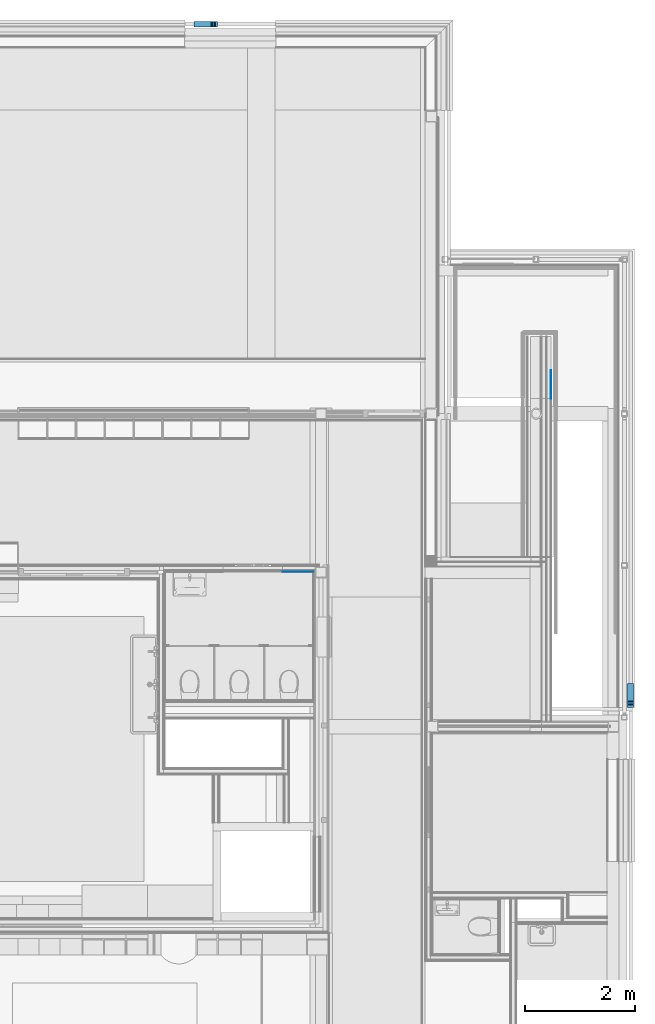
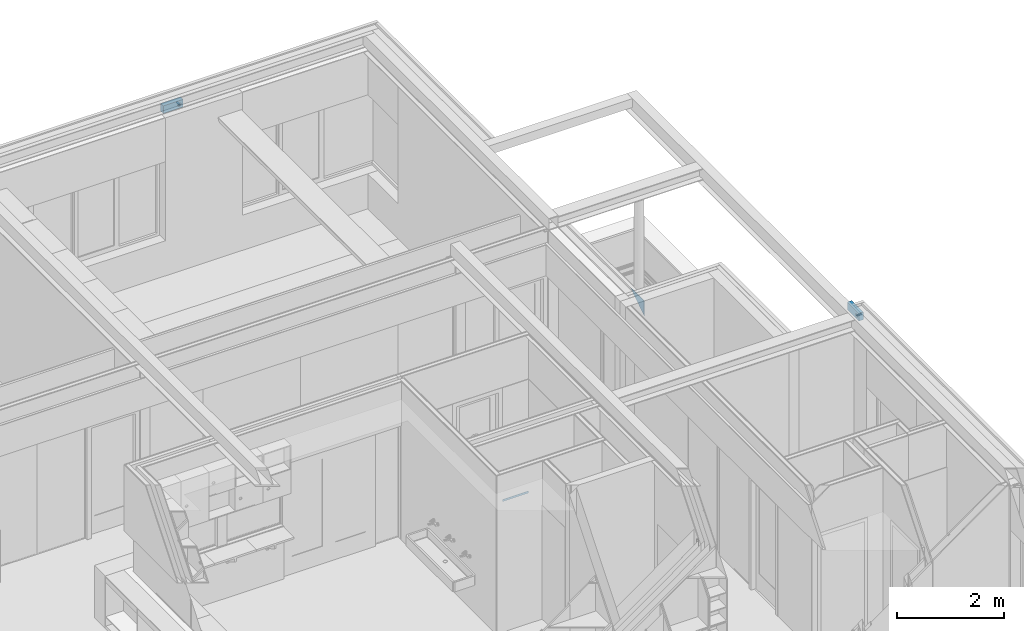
# One storey, part 101 of 137: 9 building element parts, 4 elements without a shape of their own.
"""IFC2X3 building model written with IfcOpenShell, lengths in millimetres."""

from ifc_helpers import new_model, entity, si_unit, converted_unit, derived_unit, money_unit, direction, frame, origin_with_axes, place, context, subcontext, project, spatial, faceted_brep, material, type_object, element, aggregate, save


model = new_model("IFC2X3")

# Units and contexts
model_context = context("Model", 3, precision=0.01, world=origin_with_axes(), true_north=direction((0.0, 1.0)))
body_context = subcontext(model_context, "Body", "Model", "MODEL_VIEW")
ifc_project = project(units=[si_unit("LENGTHUNIT", "METRE", prefix="MILLI"), si_unit("AREAUNIT", "SQUARE_METRE"), si_unit("VOLUMEUNIT", "CUBIC_METRE"), converted_unit("PLANEANGLEUNIT", "DEGREE", entity("IfcPlaneAngleMeasure", 0.0174532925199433), si_unit("PLANEANGLEUNIT", "RADIAN"), dimensions=[0, 0, 0, 0, 0, 0, 0]), money_unit("EUR"), converted_unit("TIMEUNIT", "Year", entity("IfcTimeMeasure", 31556926.0), si_unit("TIMEUNIT", "SECOND"), dimensions=[0, 0, 1, 0, 0, 0, 0]), si_unit("MASSUNIT", "GRAM", prefix="KILO"), si_unit("THERMODYNAMICTEMPERATUREUNIT", "DEGREE_CELSIUS"), si_unit("LUMINOUSINTENSITYUNIT", "LUMEN"), si_unit("ENERGYUNIT", "JOULE", prefix="MEGA"), derived_unit("THERMALCONDUCTANCEUNIT", [(si_unit("POWERUNIT", "WATT"), 1), (si_unit("LENGTHUNIT", "METRE"), -1), (si_unit("THERMODYNAMICTEMPERATUREUNIT", "KELVIN"), -1)]), derived_unit("SPECIFICHEATCAPACITYUNIT", [(si_unit("ENERGYUNIT", "JOULE"), 1), (si_unit("MASSUNIT", "GRAM", prefix="KILO"), -1), (si_unit("THERMODYNAMICTEMPERATUREUNIT", "KELVIN"), -1)]), derived_unit("MASSDENSITYUNIT", [(si_unit("MASSUNIT", "GRAM", prefix="KILO"), 1), (si_unit("VOLUMEUNIT", "CUBIC_METRE"), -1)])], contexts=[model_context])

# Site, building, storey
site_placement = place(None, origin_with_axes())
site = spatial("IfcSite", under=ifc_project, at=site_placement, Name="Site", CompositionType="ELEMENT")
building_placement = place(site_placement, origin_with_axes())
building = spatial("IfcBuilding", under=site, at=building_placement, Name="Naam gebouw", CompositionType="ELEMENT")
storey_placement = place(building_placement, frame((0.0, 0.0, 3960.0), z_axis=(0.0, 0.0, 1.0), x_axis=(1.0, 0.0, 0.0)))
storey = spatial("IfcBuildingStorey", under=building, at=storey_placement, Name="1e verdieping", CompositionType="ELEMENT", Elevation=3960.0)

# Wall, building element parts
wall_type = type_object("IfcWallType", Name="21 Borstwering STO Buitengevelisolatie 439", PredefinedType="NOTDEFINED")
wall_placement = place(storey_placement, frame((28500.00002397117, 22600.9762103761, -1099.99993747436), z_axis=(0.0, 0.0, 1.0), x_axis=(0.0, 1.0, 0.0)))
wall = element("IfcWall", 1, at=wall_placement, inside=storey, type_object=wall_type, Name="21_Wand-x")
ifc_material_1 = material(Name="STO weefsellaag")
building_element_part_1_placement = place(wall_placement, origin_with_axes())
building_element_part_1 = element("IfcBuildingElementPart", 2, at=building_element_part_1_placement, material=ifc_material_1, Name="STO weefsellaag", context=body_context, shape_type="Brep", body=[
    faceted_brep([(0.0, -172.9999999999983, 1720.676971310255), (508.984543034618, -172.9999999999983, 2060.0), (0.0, -172.9999999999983, 2060.0), (508.984543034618, -168.0000499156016, 2060.0), (0.0, -168.0000499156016, 1720.676971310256), (0.0, -167.9999999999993, 2060.0)], [[[0, 1, 2]], [[3, 1, 0, 4]], [[1, 3, 5, 2]], [[4, 0, 2, 5]], [[3, 4, 5]]]),
])
ifc_material_2 = material(Name="STO pleisterlaag")
building_element_part_2_placement = place(wall_placement, origin_with_axes())
building_element_part_2 = element("IfcBuildingElementPart", 3, at=building_element_part_2_placement, material=ifc_material_2, Name="STO pleisterlaag", context=body_context, shape_type="Brep", body=[
    faceted_brep([(0.0, -176.0000499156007, 1720.676971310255), (508.984543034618, -176.0000499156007, 2060.0), (0.0, -175.9999999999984, 2060.0), (508.984543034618, -172.9999999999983, 2060.0), (0.0, -172.9999999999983, 1720.676971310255), (0.0, -172.9999999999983, 2060.0)], [[[0, 1, 2]], [[3, 1, 0, 4]], [[1, 3, 5, 2]], [[4, 0, 2, 5]], [[3, 4, 5]]]),
])
aggregate(wall, [building_element_part_1, building_element_part_2])

# Beam, building element parts
beam_type = type_object("IfcBeamType", Name="41 Nestkast zwaluw 430 x 175", PredefinedType="BEAM")
beam_1_placement = place(storey_placement, frame((30159.99999999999, 17429.99778166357, 3410.000000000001), z_axis=(0.0, 0.0, 1.0), x_axis=(0.0, 1.0, 0.0)))
beam_1 = element("IfcBeam", 4, at=beam_1_placement, inside=storey, type_object=beam_type, Name="_Regenwaterafvoer-x", ObjectType="BEAM")
ifc_material_3 = material(Name="Beton gewapend C")
building_element_part_3_placement = place(beam_1_placement, origin_with_axes())
building_element_part_3 = element("IfcBuildingElementPart", 5, at=building_element_part_3_placement, material=ifc_material_3, Name="Beton gewapend C", context=body_context, shape_type="Brep", body=[
    faceted_brep([(-386.9551813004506, 100.0000000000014, 64.69266270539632), (-378.2842712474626, 100.0000000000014, 51.71572875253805), (-378.2842712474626, 0.0, 51.71572875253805), (-386.9551813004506, 0.0, 64.69266270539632), (-390.0000000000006, 100.0000000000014, 80.00000000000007), (-386.9551813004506, 100.0000000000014, 95.30733729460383), (-378.2842712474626, 100.0000000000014, 108.2842712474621), (-365.3073372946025, 100.0000000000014, 116.9551813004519), (-350.0000000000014, 100.0000000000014, 120.0000000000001), (-334.6926627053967, 100.0000000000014, 116.9551813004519), (-321.7157287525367, 100.0000000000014, 108.2842712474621), (-313.0448186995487, 100.0000000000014, 95.30733729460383), (-309.9999999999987, 100.0000000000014, 80.00000000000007), (-313.0448186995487, 100.0000000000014, 64.69266270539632), (-321.7157287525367, 100.0000000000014, 51.71572875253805), (-334.6926627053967, 100.0000000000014, 43.04481869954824), (-350.0000000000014, 100.0000000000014, 40.00000000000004), (-365.3073372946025, 100.0000000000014, 43.04481869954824), (-329.9999999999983, 100.0000000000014, 75.00000000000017), (-329.9999999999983, 100.0000000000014, 84.99999999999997), (-331.4644660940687, 100.0000000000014, 88.53553390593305), (-335.0000000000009, 100.0000000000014, 89.99999999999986), (-364.9999999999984, 100.0000000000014, 89.99999999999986), (-368.5355339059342, 100.0000000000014, 88.53553390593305), (-370.000000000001, 100.0000000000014, 84.99999999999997), (-370.000000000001, 100.0000000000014, 75.00000000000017), (-368.5355339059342, 100.0000000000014, 71.46446609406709), (-364.9999999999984, 100.0000000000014, 70.00000000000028), (-335.0000000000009, 100.0000000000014, 70.00000000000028), (-331.4644660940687, 100.0000000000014, 71.46446609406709), (-365.3073372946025, 0.0, 43.04481869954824), (-350.0000000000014, 0.0, 40.00000000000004), (-334.6926627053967, 0.0, 43.04481869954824), (-321.7157287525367, 0.0, 51.71572875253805), (-313.0448186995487, 0.0, 64.69266270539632), (-309.9999999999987, 0.0, 80.00000000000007), (-313.0448186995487, 0.0, 95.30733729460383), (-321.7157287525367, 0.0, 108.2842712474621), (-334.6926627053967, 0.0, 116.9551813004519), (-350.0000000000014, 0.0, 120.0000000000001), (-365.3073372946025, 0.0, 116.9551813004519), (-378.2842712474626, 0.0, 108.2842712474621), (-386.9551813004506, 0.0, 95.30733729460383), (-390.0000000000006, 0.0, 80.00000000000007), (-329.9999999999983, 0.0, 75.00000000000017), (-331.4644660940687, 0.0, 71.46446609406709), (-335.0000000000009, 0.0, 70.00000000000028), (-364.9999999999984, 0.0, 70.00000000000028), (-368.5355339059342, 0.0, 71.46446609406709), (-370.000000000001, 0.0, 75.00000000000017), (-370.000000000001, 0.0, 84.99999999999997), (-368.5355339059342, 0.0, 88.53553390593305), (-364.9999999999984, 0.0, 89.99999999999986), (-335.0000000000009, 0.0, 89.99999999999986), (-331.4644660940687, 0.0, 88.53553390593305), (-329.9999999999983, 0.0, 84.99999999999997)], [[[0, 1, 2, 3]], [[0, 4, 5, 6, 7, 8, 9, 10, 11, 12, 13, 14, 15, 16, 17, 1], [18, 19, 20, 21, 22, 23, 24, 25, 26, 27, 28, 29]], [[1, 17, 30, 2]], [[3, 2, 30, 31, 32, 33, 34, 35, 36, 37, 38, 39, 40, 41, 42, 43], [44, 45, 46, 47, 48, 49, 50, 51, 52, 53, 54, 55]], [[4, 0, 3, 43]], [[5, 4, 43, 42]], [[6, 5, 42, 41]], [[7, 6, 41, 40]], [[8, 7, 40, 39]], [[9, 8, 39, 38]], [[10, 9, 38, 37]], [[11, 10, 37, 36]], [[12, 11, 36, 35]], [[13, 12, 35, 34]], [[14, 13, 34, 33]], [[15, 14, 33, 32]], [[16, 15, 32, 31]], [[17, 16, 31, 30]], [[19, 18, 44, 55]], [[20, 19, 55, 54]], [[21, 20, 54, 53]], [[22, 21, 53, 52]], [[23, 22, 52, 51]], [[24, 23, 51, 50]], [[25, 24, 50, 49]], [[26, 25, 49, 48]], [[27, 26, 48, 47]], [[28, 27, 47, 46]], [[29, 28, 46, 45]], [[18, 29, 45, 44]]]),
])
ifc_material_4 = material(Name="Beton gewapend C vloer")
building_element_part_4_placement = place(beam_1_placement, origin_with_axes())
building_element_part_4 = element("IfcBuildingElementPart", 6, at=building_element_part_4_placement, material=ifc_material_4, Name="Beton gewapend C vloer", context=body_context, shape_type="Brep", body=[
    faceted_brep([(-364.9999999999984, 100.0000000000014, 89.99999999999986), (-368.5355339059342, 100.0000000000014, 88.53553390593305), (-368.5355339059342, 0.0, 88.53553390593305), (-364.9999999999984, 0.0, 89.99999999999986), (-335.0000000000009, 100.0000000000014, 89.99999999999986), (-331.4644660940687, 100.0000000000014, 88.53553390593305), (-329.9999999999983, 100.0000000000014, 84.99999999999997), (-329.9999999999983, 100.0000000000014, 75.00000000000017), (-331.4644660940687, 100.0000000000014, 71.46446609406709), (-335.0000000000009, 100.0000000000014, 70.00000000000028), (-364.9999999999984, 100.0000000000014, 70.00000000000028), (-368.5355339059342, 100.0000000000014, 71.46446609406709), (-370.000000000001, 100.0000000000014, 75.00000000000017), (-370.000000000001, 100.0000000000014, 84.99999999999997), (-370.000000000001, 0.0, 84.99999999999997), (-370.000000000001, 0.0, 75.00000000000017), (-368.5355339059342, 0.0, 71.46446609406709), (-364.9999999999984, 0.0, 70.00000000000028), (-335.0000000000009, 0.0, 70.00000000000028), (-331.4644660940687, 0.0, 71.46446609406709), (-329.9999999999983, 0.0, 75.00000000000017), (-329.9999999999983, 0.0, 84.99999999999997), (-331.4644660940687, 0.0, 88.53553390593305), (-335.0000000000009, 0.0, 89.99999999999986)], [[[0, 1, 2, 3]], [[0, 4, 5, 6, 7, 8, 9, 10, 11, 12, 13, 1]], [[1, 13, 14, 2]], [[3, 2, 14, 15, 16, 17, 18, 19, 20, 21, 22, 23]], [[4, 0, 3, 23]], [[5, 4, 23, 22]], [[6, 5, 22, 21]], [[7, 6, 21, 20]], [[8, 7, 20, 19]], [[9, 8, 19, 18]], [[10, 9, 18, 17]], [[11, 10, 17, 16]], [[12, 11, 16, 15]], [[13, 12, 15, 14]]]),
])
ifc_material_5 = material(Name="Beton C")
building_element_part_5_placement = place(beam_1_placement, origin_with_axes())
building_element_part_5 = element("IfcBuildingElementPart", 7, at=building_element_part_5_placement, material=ifc_material_5, Name="Beton C", context=body_context, shape_type="Brep", body=[
    faceted_brep([(-429.9999999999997, 100.0000000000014, 0.0), (0.0, 100.0000000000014, 0.0), (0.0, 0.0, 0.0), (-429.9999999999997, 0.0, 0.0), (-429.9999999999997, 100.0000000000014, 174.9999999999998), (0.0, 100.0000000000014, 174.9999999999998), (-313.0448186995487, 100.0000000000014, 64.69266270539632), (-309.9999999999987, 100.0000000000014, 80.00000000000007), (-313.0448186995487, 100.0000000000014, 95.30733729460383), (-321.7157287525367, 100.0000000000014, 108.2842712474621), (-334.6926627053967, 100.0000000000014, 116.9551813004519), (-350.0000000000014, 100.0000000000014, 120.0000000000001), (-365.3073372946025, 100.0000000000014, 116.9551813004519), (-378.2842712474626, 100.0000000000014, 108.2842712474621), (-386.9551813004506, 100.0000000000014, 95.30733729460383), (-390.0000000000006, 100.0000000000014, 80.00000000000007), (-386.9551813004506, 100.0000000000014, 64.69266270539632), (-378.2842712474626, 100.0000000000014, 51.71572875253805), (-365.3073372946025, 100.0000000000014, 43.04481869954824), (-350.0000000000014, 100.0000000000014, 40.00000000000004), (-334.6926627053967, 100.0000000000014, 43.04481869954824), (-321.7157287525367, 100.0000000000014, 51.71572875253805), (0.0, 0.0, 174.9999999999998), (-429.9999999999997, 0.0, 174.9999999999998), (-313.0448186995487, 0.0, 64.69266270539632), (-321.7157287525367, 0.0, 51.71572875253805), (-334.6926627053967, 0.0, 43.04481869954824), (-350.0000000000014, 0.0, 40.00000000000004), (-365.3073372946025, 0.0, 43.04481869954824), (-378.2842712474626, 0.0, 51.71572875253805), (-386.9551813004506, 0.0, 64.69266270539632), (-390.0000000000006, 0.0, 80.00000000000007), (-386.9551813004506, 0.0, 95.30733729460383), (-378.2842712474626, 0.0, 108.2842712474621), (-365.3073372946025, 0.0, 116.9551813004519), (-350.0000000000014, 0.0, 120.0000000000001), (-334.6926627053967, 0.0, 116.9551813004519), (-321.7157287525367, 0.0, 108.2842712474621), (-313.0448186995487, 0.0, 95.30733729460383), (-309.9999999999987, 0.0, 80.00000000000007)], [[[0, 1, 2, 3]], [[0, 4, 5, 1], [6, 7, 8, 9, 10, 11, 12, 13, 14, 15, 16, 17, 18, 19, 20, 21]], [[1, 5, 22, 2]], [[3, 2, 22, 23], [24, 25, 26, 27, 28, 29, 30, 31, 32, 33, 34, 35, 36, 37, 38, 39]], [[4, 0, 3, 23]], [[5, 4, 23, 22]], [[7, 6, 24, 39]], [[8, 7, 39, 38]], [[9, 8, 38, 37]], [[10, 9, 37, 36]], [[11, 10, 36, 35]], [[12, 11, 35, 34]], [[13, 12, 34, 33]], [[14, 13, 33, 32]], [[15, 14, 32, 31]], [[16, 15, 31, 30]], [[17, 16, 30, 29]], [[18, 17, 29, 28]], [[19, 18, 28, 27]], [[20, 19, 27, 26]], [[21, 20, 26, 25]], [[6, 21, 25, 24]]]),
])
aggregate(beam_1, [building_element_part_3, building_element_part_4, building_element_part_5])

beam_2_placement = place(storey_placement, frame((22194.99942456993, 29435.0, 3410.000000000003), z_axis=(0.0, 0.0, 1.0), x_axis=(-1.0, 0.0, 0.0)))
beam_2 = element("IfcBeam", 8, at=beam_2_placement, inside=storey, type_object=beam_type, Name="_Regenwaterafvoer-x", ObjectType="BEAM")
building_element_part_6_placement = place(beam_2_placement, origin_with_axes())
building_element_part_6 = element("IfcBuildingElementPart", 9, at=building_element_part_6_placement, material=ifc_material_3, Name="Beton gewapend C", context=body_context, shape_type="Brep", body=[
    faceted_brep([(-386.9551813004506, 100.0000000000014, 64.69266270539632), (-378.2842712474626, 100.0000000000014, 51.71572875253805), (-378.2842712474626, 0.0, 51.71572875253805), (-386.9551813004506, 0.0, 64.69266270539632), (-390.0000000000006, 100.0000000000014, 80.00000000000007), (-386.9551813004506, 100.0000000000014, 95.30733729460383), (-378.2842712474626, 100.0000000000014, 108.2842712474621), (-365.3073372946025, 100.0000000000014, 116.9551813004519), (-350.0000000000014, 100.0000000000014, 120.0000000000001), (-334.6926627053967, 100.0000000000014, 116.9551813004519), (-321.7157287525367, 100.0000000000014, 108.2842712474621), (-313.0448186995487, 100.0000000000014, 95.30733729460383), (-309.9999999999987, 100.0000000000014, 80.00000000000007), (-313.0448186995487, 100.0000000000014, 64.69266270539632), (-321.7157287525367, 100.0000000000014, 51.71572875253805), (-334.6926627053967, 100.0000000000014, 43.04481869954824), (-350.0000000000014, 100.0000000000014, 40.00000000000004), (-365.3073372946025, 100.0000000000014, 43.04481869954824), (-329.9999999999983, 100.0000000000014, 75.00000000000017), (-329.9999999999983, 100.0000000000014, 84.99999999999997), (-331.4644660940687, 100.0000000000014, 88.53553390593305), (-335.0000000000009, 100.0000000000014, 89.99999999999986), (-364.9999999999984, 100.0000000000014, 89.99999999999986), (-368.5355339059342, 100.0000000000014, 88.53553390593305), (-370.000000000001, 100.0000000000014, 84.99999999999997), (-370.000000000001, 100.0000000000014, 75.00000000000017), (-368.5355339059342, 100.0000000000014, 71.46446609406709), (-364.9999999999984, 100.0000000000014, 70.00000000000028), (-335.0000000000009, 100.0000000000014, 70.00000000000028), (-331.4644660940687, 100.0000000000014, 71.46446609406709), (-365.3073372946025, 0.0, 43.04481869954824), (-350.0000000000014, 0.0, 40.00000000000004), (-334.6926627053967, 0.0, 43.04481869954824), (-321.7157287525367, 0.0, 51.71572875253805), (-313.0448186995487, 0.0, 64.69266270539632), (-309.9999999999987, 0.0, 80.00000000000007), (-313.0448186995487, 0.0, 95.30733729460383), (-321.7157287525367, 0.0, 108.2842712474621), (-334.6926627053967, 0.0, 116.9551813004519), (-350.0000000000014, 0.0, 120.0000000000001), (-365.3073372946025, 0.0, 116.9551813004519), (-378.2842712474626, 0.0, 108.2842712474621), (-386.9551813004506, 0.0, 95.30733729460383), (-390.0000000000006, 0.0, 80.00000000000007), (-329.9999999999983, 0.0, 75.00000000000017), (-331.4644660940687, 0.0, 71.46446609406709), (-335.0000000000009, 0.0, 70.00000000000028), (-364.9999999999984, 0.0, 70.00000000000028), (-368.5355339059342, 0.0, 71.46446609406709), (-370.000000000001, 0.0, 75.00000000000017), (-370.000000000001, 0.0, 84.99999999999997), (-368.5355339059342, 0.0, 88.53553390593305), (-364.9999999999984, 0.0, 89.99999999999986), (-335.0000000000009, 0.0, 89.99999999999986), (-331.4644660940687, 0.0, 88.53553390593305), (-329.9999999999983, 0.0, 84.99999999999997)], [[[0, 1, 2, 3]], [[0, 4, 5, 6, 7, 8, 9, 10, 11, 12, 13, 14, 15, 16, 17, 1], [18, 19, 20, 21, 22, 23, 24, 25, 26, 27, 28, 29]], [[1, 17, 30, 2]], [[3, 2, 30, 31, 32, 33, 34, 35, 36, 37, 38, 39, 40, 41, 42, 43], [44, 45, 46, 47, 48, 49, 50, 51, 52, 53, 54, 55]], [[4, 0, 3, 43]], [[5, 4, 43, 42]], [[6, 5, 42, 41]], [[7, 6, 41, 40]], [[8, 7, 40, 39]], [[9, 8, 39, 38]], [[10, 9, 38, 37]], [[11, 10, 37, 36]], [[12, 11, 36, 35]], [[13, 12, 35, 34]], [[14, 13, 34, 33]], [[15, 14, 33, 32]], [[16, 15, 32, 31]], [[17, 16, 31, 30]], [[19, 18, 44, 55]], [[20, 19, 55, 54]], [[21, 20, 54, 53]], [[22, 21, 53, 52]], [[23, 22, 52, 51]], [[24, 23, 51, 50]], [[25, 24, 50, 49]], [[26, 25, 49, 48]], [[27, 26, 48, 47]], [[28, 27, 47, 46]], [[29, 28, 46, 45]], [[18, 29, 45, 44]]]),
])
building_element_part_7_placement = place(beam_2_placement, origin_with_axes())
building_element_part_7 = element("IfcBuildingElementPart", 10, at=building_element_part_7_placement, material=ifc_material_5, Name="Beton C", context=body_context, shape_type="Brep", body=[
    faceted_brep([(-429.9999999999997, 100.0000000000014, 0.0), (0.0, 100.0000000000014, 0.0), (0.0, 0.0, 0.0), (-429.9999999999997, 0.0, 0.0), (-429.9999999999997, 100.0000000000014, 174.9999999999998), (0.0, 100.0000000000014, 174.9999999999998), (-313.0448186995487, 100.0000000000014, 64.69266270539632), (-309.9999999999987, 100.0000000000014, 80.00000000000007), (-313.0448186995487, 100.0000000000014, 95.30733729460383), (-321.7157287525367, 100.0000000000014, 108.2842712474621), (-334.6926627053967, 100.0000000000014, 116.9551813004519), (-350.0000000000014, 100.0000000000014, 120.0000000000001), (-365.3073372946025, 100.0000000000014, 116.9551813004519), (-378.2842712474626, 100.0000000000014, 108.2842712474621), (-386.9551813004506, 100.0000000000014, 95.30733729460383), (-390.0000000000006, 100.0000000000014, 80.00000000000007), (-386.9551813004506, 100.0000000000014, 64.69266270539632), (-378.2842712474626, 100.0000000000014, 51.71572875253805), (-365.3073372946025, 100.0000000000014, 43.04481869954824), (-350.0000000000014, 100.0000000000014, 40.00000000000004), (-334.6926627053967, 100.0000000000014, 43.04481869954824), (-321.7157287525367, 100.0000000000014, 51.71572875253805), (0.0, 0.0, 174.9999999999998), (-429.9999999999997, 0.0, 174.9999999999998), (-313.0448186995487, 0.0, 64.69266270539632), (-321.7157287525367, 0.0, 51.71572875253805), (-334.6926627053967, 0.0, 43.04481869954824), (-350.0000000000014, 0.0, 40.00000000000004), (-365.3073372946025, 0.0, 43.04481869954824), (-378.2842712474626, 0.0, 51.71572875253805), (-386.9551813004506, 0.0, 64.69266270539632), (-390.0000000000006, 0.0, 80.00000000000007), (-386.9551813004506, 0.0, 95.30733729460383), (-378.2842712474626, 0.0, 108.2842712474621), (-365.3073372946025, 0.0, 116.9551813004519), (-350.0000000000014, 0.0, 120.0000000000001), (-334.6926627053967, 0.0, 116.9551813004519), (-321.7157287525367, 0.0, 108.2842712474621), (-313.0448186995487, 0.0, 95.30733729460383), (-309.9999999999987, 0.0, 80.00000000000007)], [[[0, 1, 2, 3]], [[0, 4, 5, 1], [6, 7, 8, 9, 10, 11, 12, 13, 14, 15, 16, 17, 18, 19, 20, 21]], [[1, 5, 22, 2]], [[3, 2, 22, 23], [24, 25, 26, 27, 28, 29, 30, 31, 32, 33, 34, 35, 36, 37, 38, 39]], [[4, 0, 3, 23]], [[5, 4, 23, 22]], [[7, 6, 24, 39]], [[8, 7, 39, 38]], [[9, 8, 38, 37]], [[10, 9, 37, 36]], [[11, 10, 36, 35]], [[12, 11, 35, 34]], [[13, 12, 34, 33]], [[14, 13, 33, 32]], [[15, 14, 32, 31]], [[16, 15, 31, 30]], [[17, 16, 30, 29]], [[18, 17, 29, 28]], [[19, 18, 28, 27]], [[20, 19, 27, 26]], [[21, 20, 26, 25]], [[6, 21, 25, 24]]]),
])
building_element_part_8_placement = place(beam_2_placement, origin_with_axes())
building_element_part_8 = element("IfcBuildingElementPart", 11, at=building_element_part_8_placement, material=ifc_material_4, Name="Beton gewapend C vloer", context=body_context, shape_type="Brep", body=[
    faceted_brep([(-364.9999999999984, 100.0000000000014, 89.99999999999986), (-368.5355339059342, 100.0000000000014, 88.53553390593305), (-368.5355339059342, 0.0, 88.53553390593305), (-364.9999999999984, 0.0, 89.99999999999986), (-335.0000000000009, 100.0000000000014, 89.99999999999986), (-331.4644660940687, 100.0000000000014, 88.53553390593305), (-329.9999999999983, 100.0000000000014, 84.99999999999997), (-329.9999999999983, 100.0000000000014, 75.00000000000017), (-331.4644660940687, 100.0000000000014, 71.46446609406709), (-335.0000000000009, 100.0000000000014, 70.00000000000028), (-364.9999999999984, 100.0000000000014, 70.00000000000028), (-368.5355339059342, 100.0000000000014, 71.46446609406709), (-370.000000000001, 100.0000000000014, 75.00000000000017), (-370.000000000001, 100.0000000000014, 84.99999999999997), (-370.000000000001, 0.0, 84.99999999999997), (-370.000000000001, 0.0, 75.00000000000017), (-368.5355339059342, 0.0, 71.46446609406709), (-364.9999999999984, 0.0, 70.00000000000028), (-335.0000000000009, 0.0, 70.00000000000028), (-331.4644660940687, 0.0, 71.46446609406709), (-329.9999999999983, 0.0, 75.00000000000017), (-329.9999999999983, 0.0, 84.99999999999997), (-331.4644660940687, 0.0, 88.53553390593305), (-335.0000000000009, 0.0, 89.99999999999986)], [[[0, 1, 2, 3]], [[0, 4, 5, 6, 7, 8, 9, 10, 11, 12, 13, 1]], [[1, 13, 14, 2]], [[3, 2, 14, 15, 16, 17, 18, 19, 20, 21, 22, 23]], [[4, 0, 3, 23]], [[5, 4, 23, 22]], [[6, 5, 22, 21]], [[7, 6, 21, 20]], [[8, 7, 20, 19]], [[9, 8, 19, 18]], [[10, 9, 18, 17]], [[11, 10, 17, 16]], [[12, 11, 16, 15]], [[13, 12, 15, 14]]]),
])
aggregate(beam_2, [building_element_part_6, building_element_part_7, building_element_part_8])

# Proxy, building element part
building_element_proxy_type = type_object("IfcBuildingElementProxyType", Name="42 Tegelwerk 2600+ 12 x 2600", PredefinedType="NOTDEFINED")
proxy_placement = place(storey_placement, frame((24344.99903999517, 19439.9998112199, 0.0), z_axis=(0.0, 0.0, 1.0), x_axis=(-1.0, 0.0, 0.0)))
proxy = element("IfcBuildingElementProxy", 12, at=proxy_placement, inside=storey, type_object=building_element_proxy_type, Name="_Wand-x")
ifc_material_6 = material(Name="48 vloeivloer Bolidt")
building_element_part_9_placement = place(proxy_placement, origin_with_axes())
building_element_part_9 = element("IfcBuildingElementPart", 13, at=building_element_part_9_placement, material=ifc_material_6, Name="48 vloeivloer Bolidt", context=body_context, shape_type="Brep", body=[
    faceted_brep([(-14.99999850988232, -14.99999850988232, 50.00000596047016), (-14.99999850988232, -19.99998360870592, 50.00000596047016), (545.0078311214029, -19.99998360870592, 50.00000596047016), (545.0078311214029, -14.99999850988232, 50.00000596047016), (-14.99999850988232, -19.99998360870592, 0.0), (-14.99999850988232, -14.99999850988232, 0.0), (545.0078311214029, -19.99998360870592, 0.0), (545.0078311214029, -14.99999850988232, 0.0)], [[[0, 1, 2, 3]], [[4, 1, 0, 5]], [[1, 4, 6, 2]], [[2, 6, 7, 3]], [[5, 0, 3, 7]], [[4, 5, 7, 6]]]),
])
aggregate(proxy, [building_element_part_9])

save(model, "model.ifc")
